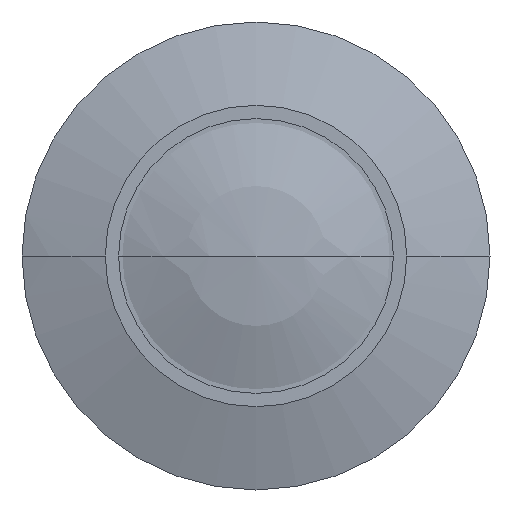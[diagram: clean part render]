
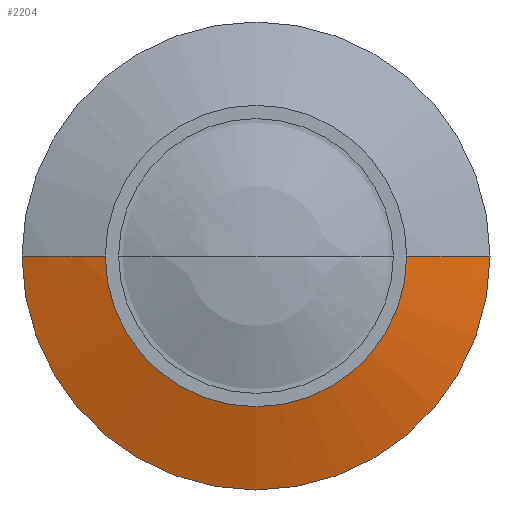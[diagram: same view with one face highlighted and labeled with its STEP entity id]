
A CAD part, left-side view. The second image highlights one B-rep face of the part: STEP entity #2204.
In plain terms, the highlighted spherical face has radius 35 mm.
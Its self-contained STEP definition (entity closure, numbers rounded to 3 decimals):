
#11=CARTESIAN_POINT('',(-17.58,0.,0.));
#12=DIRECTION('',(-1.,0.,0.));
#13=DIRECTION('',(0.,1.,0.));
#14=AXIS2_PLACEMENT_3D('',#11,#12,#13);
#16=CARTESIAN_POINT('',(-16.21,0.,0.));
#17=DIRECTION('',(-1.,0.,0.));
#18=DIRECTION('',(0.,1.,0.));
#19=AXIS2_PLACEMENT_3D('',#16,#17,#18);
#617=CARTESIAN_POINT('',(16.482,0.,0.));
#618=DIRECTION('',(0.,0.,-1.));
#619=DIRECTION('',(-0.973,0.23,0.));
#620=AXIS2_PLACEMENT_3D('',#617,#618,#619);
#622=CARTESIAN_POINT('',(16.482,0.,0.));
#623=DIRECTION('',(0.,0.,1.));
#624=DIRECTION('',(-0.973,-0.23,0.));
#625=AXIS2_PLACEMENT_3D('',#622,#623,#624);
#2070=CARTESIAN_POINT('',(-17.58,8.05,0.));
#2071=CARTESIAN_POINT('',(-16.21,12.5,0.));
#2072=VERTEX_POINT('',#2070);
#2073=VERTEX_POINT('',#2071);
#2080=CARTESIAN_POINT('',(-17.58,-8.05,0.));
#2081=CARTESIAN_POINT('',(-16.21,-12.5,0.));
#2082=VERTEX_POINT('',#2080);
#2083=VERTEX_POINT('',#2081);
#2190=CARTESIAN_POINT('',(16.482,0.,0.));
#2191=DIRECTION('',(-1.,0.,0.));
#2192=DIRECTION('',(0.,-1.,0.));
#2193=AXIS2_PLACEMENT_3D('',#2190,#2191,#2192);
#2194=SPHERICAL_SURFACE('',#2193,35.);
#2196=ORIENTED_EDGE('',*,*,#2195,.F.);
#2197=ORIENTED_EDGE('',*,*,#2185,.T.);
#2199=ORIENTED_EDGE('',*,*,#2198,.T.);
#2201=ORIENTED_EDGE('',*,*,#2200,.F.);
#2202=EDGE_LOOP('',(#2196,#2197,#2199,#2201));
#2203=FACE_OUTER_BOUND('',#2202,.F.);
#2204=ADVANCED_FACE('',(#2203),#2194,.T.);
#15=CIRCLE('',#14,8.05);
#20=CIRCLE('',#19,12.5);
#621=CIRCLE('',#620,35.);
#626=CIRCLE('',#625,35.);
#2185=EDGE_CURVE('',#2072,#2082,#15,.T.);
#2195=EDGE_CURVE('',#2072,#2073,#621,.T.);
#2198=EDGE_CURVE('',#2082,#2083,#626,.T.);
#2200=EDGE_CURVE('',#2073,#2083,#20,.T.);
